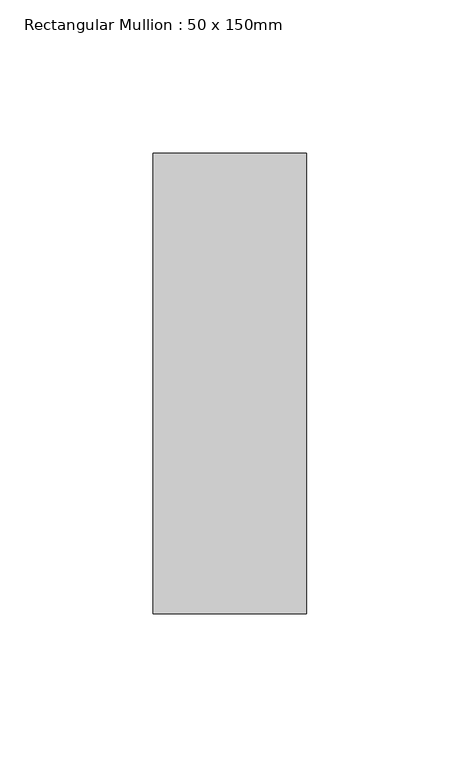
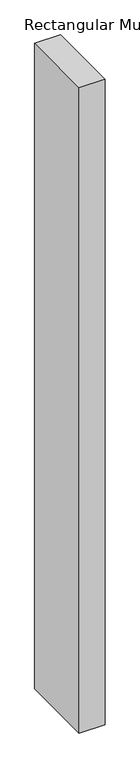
"""IFC4 building model written with IfcOpenShell, lengths in millimetres: member geometry, Rectangular Mullion : 50 x 150mm."""

from ifc_helpers import new_model, si_unit, frame, origin, place, context, project, spatial, polyline, outline, extrude, source, transform, mapped, element, save


def rectangular_mullion_50_x_150mm_67eee0e0(model_context):
    return source(origin(), model_context, "Body", "SweptSolid", [
        extrude(outline(polyline([(0.0, 75.0), (0.0, -75.0), (-50.0, -75.0), (-50.0, 75.0), (0.0, 75.0)])), frame((0.0, 0.0, -1325.7819756), z_axis=(0.0, 0.0, 1.0), x_axis=(1.0, 0.0, 0.0)), (0.0, 0.0, 1.0), 1325.7819756),
    ])


if __name__ == "__main__":
    model = new_model("IFC4")
    model_context = context("Model", 3, world=origin())
    ifc_project = project(units=[si_unit("LENGTHUNIT", "METRE", prefix="MILLI")], contexts=[model_context])
    site = spatial("IfcSite", under=ifc_project)
    building = spatial("IfcBuilding", under=site)
    placement = place(None, origin())
    rectangular_mullion_50_x_150mm_shape = rectangular_mullion_50_x_150mm_67eee0e0(model_context)
    element("IfcMember", 1, ObjectType="Rectangular Mullion : 50 x 150mm", at=placement, inside=building, context=model_context, shape_type="MappedRepresentation", body=[
        mapped(rectangular_mullion_50_x_150mm_shape, transform((0.0, 0.0, 0.0), x_axis=(1.0, 0.0, 0.0), y_axis=(0.0, 1.0, 0.0), z_axis=(0.0, 0.0, 1.0))),
    ])
    save(model, "model.ifc")
